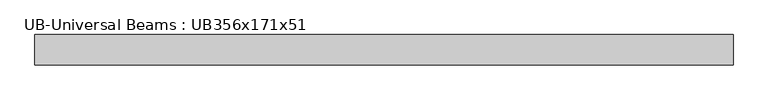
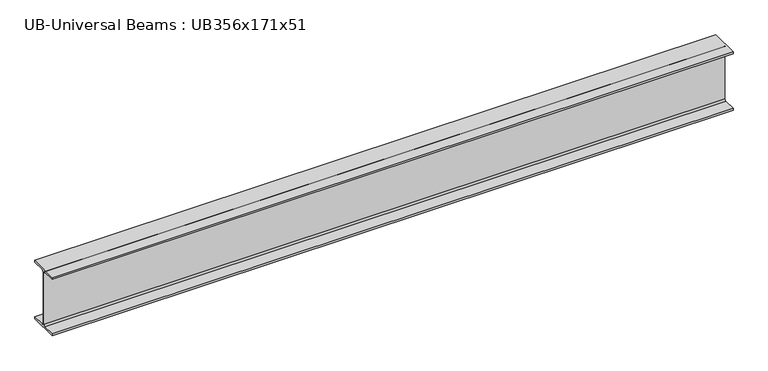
"""IFC4 building model written with IfcOpenShell, lengths in millimetres: beam geometry, UB-Universal Beams : UB356x171x51."""

from ifc_helpers import new_model, si_unit, point, frame, frame_2d, origin, place, context, project, spatial, polyline, circle_curve, trimmed, segment, composite_curve, outline, extrude, source, transform, mapped, element, save


def ub_universal_beams_ub356x171x51_579ee26b(model_context):
    return source(origin(), model_context, "Body", "SweptSolid", [
        extrude(outline(composite_curve([segment(polyline([(85.75, -166.0), (85.75, -177.5), (-85.75, -177.5), (-85.75, -166.0), (-13.9, -166.0)]), True, "CONTINUOUS"), segment(trimmed(circle_curve(frame_2d((-13.9, -155.8)), 10.2), [point((-13.9, -166.0))], [point((-3.7, -155.8))], True, "CARTESIAN"), True, "CONTINUOUS"), segment(polyline([(-3.7, -155.8), (-3.7, 155.8)]), True, "CONTINUOUS"), segment(trimmed(circle_curve(frame_2d((-13.9, 155.8)), 10.2), [point((-3.7, 155.8))], [point((-13.9, 166.0))], True, "CARTESIAN"), True, "CONTINUOUS"), segment(polyline([(-13.9, 166.0), (-85.75, 166.0), (-85.75, 177.5), (85.75, 177.5), (85.75, 166.0), (13.9, 166.0)]), True, "CONTINUOUS"), segment(trimmed(circle_curve(frame_2d((13.9, 155.8)), 10.2), [point((13.9, 166.0))], [point((3.7, 155.8))], True, "CARTESIAN"), True, "CONTINUOUS"), segment(polyline([(3.7, 155.8), (3.7, -155.8)]), True, "CONTINUOUS"), segment(trimmed(circle_curve(frame_2d((13.9, -155.8)), 10.2), [point((3.7, -155.8))], [point((13.9, -166.0))], True, "CARTESIAN"), True, "CONTINUOUS"), segment(polyline([(13.9, -166.0), (85.75, -166.0)]), True, "CONTINUOUS")], self_intersect=False)), frame((-1877.8, 0.0, 0.0), z_axis=(1.0, 0.0, 0.0), x_axis=(0.0, 1.0, 0.0)), (0.0, 0.0, 1.0), 3922.3),
    ])


if __name__ == "__main__":
    model = new_model("IFC4")
    model_context = context("Model", 3, world=origin())
    ifc_project = project(units=[si_unit("LENGTHUNIT", "METRE", prefix="MILLI")], contexts=[model_context])
    site = spatial("IfcSite", under=ifc_project)
    building = spatial("IfcBuilding", under=site)
    placement = place(None, origin())
    ub_universal_beams_ub356x171x51_shape = ub_universal_beams_ub356x171x51_579ee26b(model_context)
    element("IfcBeam", 1, ObjectType="UB-Universal Beams : UB356x171x51", at=placement, inside=building, context=model_context, shape_type="MappedRepresentation", body=[
        mapped(ub_universal_beams_ub356x171x51_shape, transform((0.0, 0.0, 0.0), x_axis=(1.0, 0.0, 0.0), y_axis=(0.0, 1.0, 0.0), z_axis=(0.0, 0.0, 1.0))),
    ])
    save(model, "model.ifc")
